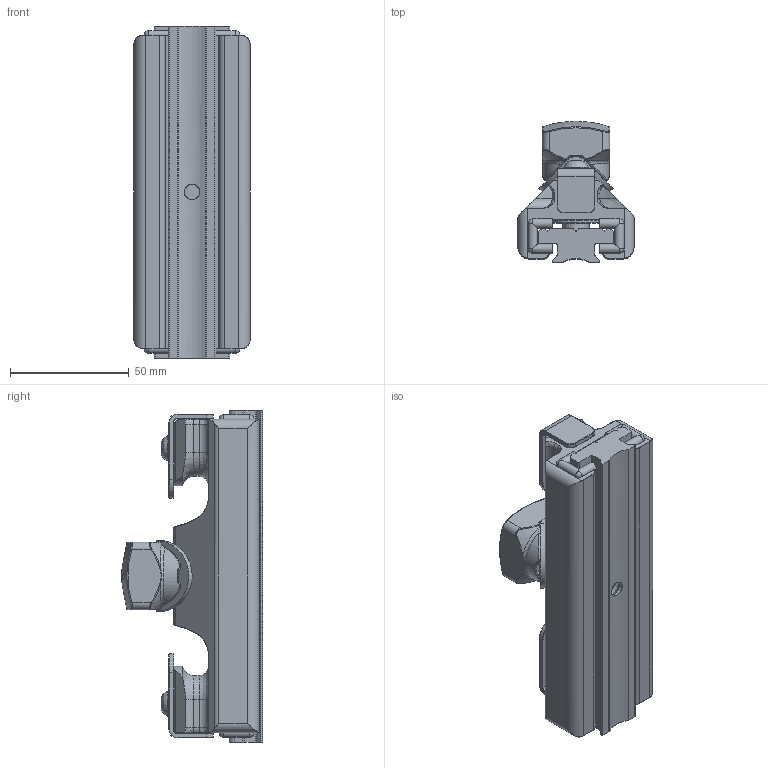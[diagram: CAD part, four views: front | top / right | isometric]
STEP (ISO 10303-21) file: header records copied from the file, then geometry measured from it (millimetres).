
FILE_DESCRIPTION(/* description */ (''),/* implementation_level */ '2;1');
FILE_NAME(/* name */ 'D:\Utenti\lucade\Desktop\622.402.stp',/* time_stamp */ '2022-07-05T16:13:15+02:00',/* author */ ('lucade'),/* organization */ (''),/* preprocessor_version */ 'ST-DEVELOPER v19',/* originating_system */ 'Autodesk Inventor 2023',/* authorisation */ '');
FILE_SCHEMA (('AUTOMOTIVE_DESIGN { 1 0 10303 214 3 1 1 }'));
Length unit declared in the file: millimetre
Products named in the file (1): Parte6
Bounding box: 49 x 59.53 x 140 mm (x, y, z)
Volume: 168207.8 mm3; surface area: 66422.7 mm2
Topology: 3 solids, 3 shells, 687 faces, 1705 edges, 1011 vertices
Faces by surface type: cylinder 201, plane 166, bspline 165, torus 95, cone 30, sphere 30
Full cylindrical faces by diameter (mm): 5 x2, 6.5 x1, 6.8 x2, 7 x1, 7.25 x1, 11 x2, 11.25 x1, 13 x1, 17.95 x1, 18 x1, 20 x1, 23 x1
Entity records: 27680 total; most frequent: CARTESIAN_POINT 11247, ORIENTED_EDGE 3386, DIRECTION 3237, EDGE_CURVE 1693, AXIS2_PLACEMENT_3D 1350, VERTEX_POINT 1013, CIRCLE 720, EDGE_LOOP 708
